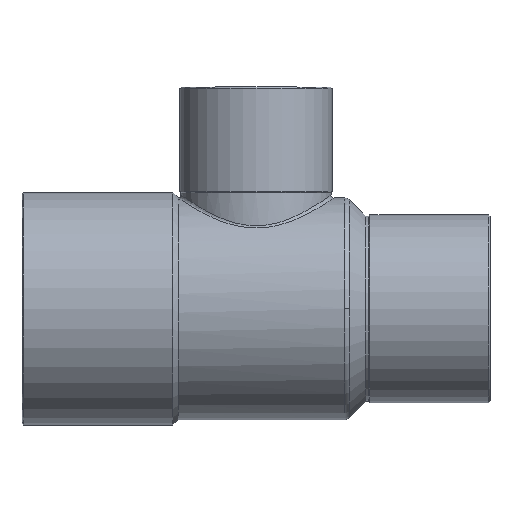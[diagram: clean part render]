
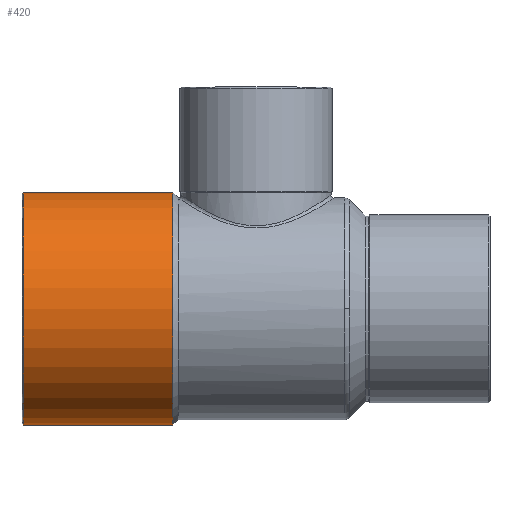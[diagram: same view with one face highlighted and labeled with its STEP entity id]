
A CAD part, top view. The second image highlights one B-rep face of the part: STEP entity #420.
In plain terms, the highlighted cylindrical face has radius 18.875 mm (diameter 37.75 mm), a partial arc.
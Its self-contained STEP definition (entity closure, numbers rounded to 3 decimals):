
#335=CARTESIAN_POINT('',(-13.503,18.875,0.0));
#336=VERTEX_POINT('',#335);
#345=CARTESIAN_POINT('',(-13.503,-18.875,0.));
#346=VERTEX_POINT('',#345);
#347=CARTESIAN_POINT('',(-13.503,0.0,0.0));
#348=DIRECTION('',(1.0,0.0,0.0));
#349=DIRECTION('',(0.0,1.0,0.0));
#350=AXIS2_PLACEMENT_3D('',#347,#348,#349);
#351=CIRCLE('',#350,18.875);
#352=EDGE_CURVE('',#336,#346,#351,.T.);
#389=CARTESIAN_POINT('',(-25.751,0.0,0.0));
#390=DIRECTION('',(1.0,0.0,0.0));
#391=DIRECTION('',(0.0,1.0,0.0));
#392=AXIS2_PLACEMENT_3D('',#389,#390,#391);
#393=CYLINDRICAL_SURFACE('',#392,18.875);
#394=CARTESIAN_POINT('',(-37.8,18.875,0.));
#395=VERTEX_POINT('',#394);
#396=CARTESIAN_POINT('',(-37.8,18.875,0.));
#397=DIRECTION('',(1.0,0.0,0.0));
#398=VECTOR('',#397,24.297);
#399=LINE('',#396,#398);
#400=EDGE_CURVE('',#395,#336,#399,.T.);
#401=ORIENTED_EDGE('',*,*,#400,.F.);
#402=CARTESIAN_POINT('',(-37.8,-18.875,0.));
#403=VERTEX_POINT('',#402);
#404=CARTESIAN_POINT('',(-37.8,0.0,0.0));
#405=DIRECTION('',(-1.0,0.0,0.0));
#406=DIRECTION('',(0.0,-1.0,0.0));
#407=AXIS2_PLACEMENT_3D('',#404,#405,#406);
#408=CIRCLE('',#407,18.875);
#409=EDGE_CURVE('',#403,#395,#408,.T.);
#410=ORIENTED_EDGE('',*,*,#409,.F.);
#411=CARTESIAN_POINT('',(-13.503,-18.875,0.));
#412=DIRECTION('',(-1.0,0.0,0.0));
#413=VECTOR('',#412,24.297);
#414=LINE('',#411,#413);
#415=EDGE_CURVE('',#346,#403,#414,.T.);
#416=ORIENTED_EDGE('',*,*,#415,.F.);
#417=ORIENTED_EDGE('',*,*,#352,.F.);
#418=EDGE_LOOP('',(#401,#410,#416,#417));
#419=FACE_OUTER_BOUND('',#418,.T.);
#420=ADVANCED_FACE('',(#419),#393,.T.);
